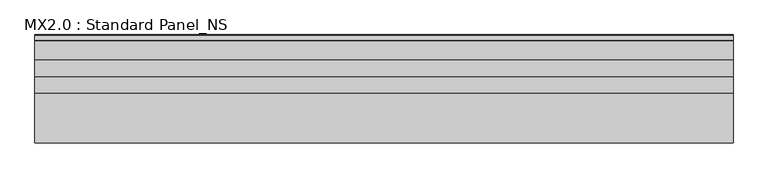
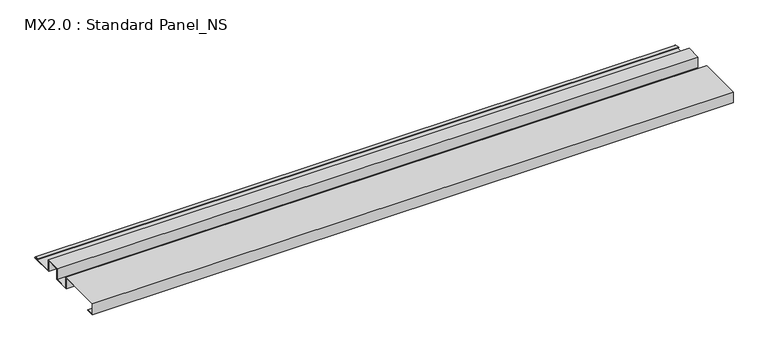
"""IFC4 building model written with IfcOpenShell, lengths in millimetres: proxy geometry, MX2.0 : Standard Panel_NS."""

from ifc_helpers import new_model, si_unit, point, frame, frame_2d, origin, place, context, project, spatial, polyline, circle_curve, trimmed, segment, composite_curve, outline, extrude, source, transform, mapped, element, save


def mx2_0_standard_panel_ns_31f8ef59(model_context):
    return source(origin(), model_context, "Body", "SweptSolid", [
        extrude(outline(composite_curve([segment(polyline([(0.0, 0.0), (0.0, 38.0), (150.0, 38.0), (150.0, 1.0), (200.0, 1.0), (200.0, 38.0), (250.0, 38.0), (250.0, 0.0), (324.8317866, 0.0)]), True, "CONTINUOUS"), segment(trimmed(circle_curve(frame_2d((324.3094696, 0.9153551)), 1.0538928), [point((324.8317866, 0.0))], [point((324.8448691, 1.8231201))], True, "CARTESIAN"), True, "CONTINUOUS"), segment(polyline([(324.8448691, 1.8231201), (308.5989911, 4.94103), (308.7874714, 5.923107), (325.1748462, 2.778041)]), True, "CONTINUOUS"), segment(trimmed(circle_curve(frame_2d((324.3094696, 0.9153551)), 2.0538928), [point((325.1748462, 2.778041))], [point((325.0510156, -1.0))], False, "CARTESIAN"), True, "CONTINUOUS"), segment(polyline([(325.0510156, -1.0), (249.0, -1.0), (249.0, 37.0), (201.0, 37.0), (201.0, 0.0), (149.0, 0.0), (149.0, 37.0), (1.0, 37.0), (1.0, 1.0), (25.0, 1.0), (25.0, 0.0), (0.0, 0.0)]), True, "CONTINUOUS")], self_intersect=False)), frame((0.0, 0.0, 0.0), z_axis=(1.0, 0.0, 0.0), x_axis=(0.0, 1.0, 0.0)), (0.0, 0.0, 1.0), 2100.0),
    ])


if __name__ == "__main__":
    model = new_model("IFC4")
    model_context = context("Model", 3, world=origin())
    ifc_project = project(units=[si_unit("LENGTHUNIT", "METRE", prefix="MILLI")], contexts=[model_context])
    site = spatial("IfcSite", under=ifc_project)
    building = spatial("IfcBuilding", under=site)
    placement = place(None, origin())
    mx2_0_standard_panel_ns_shape = mx2_0_standard_panel_ns_31f8ef59(model_context)
    element("IfcBuildingElementProxy", 1, Name="MX2.0 : Standard Panel_NS", ObjectType="MX2.0 : Standard Panel_NS", at=placement, inside=building, context=model_context, shape_type="MappedRepresentation", body=[
        mapped(mx2_0_standard_panel_ns_shape, transform((0.0, 0.0, 0.0), x_axis=(1.0, 0.0, 0.0), y_axis=(0.0, 1.0, 0.0), z_axis=(0.0, 0.0, 1.0))),
    ])
    save(model, "model.ifc")
